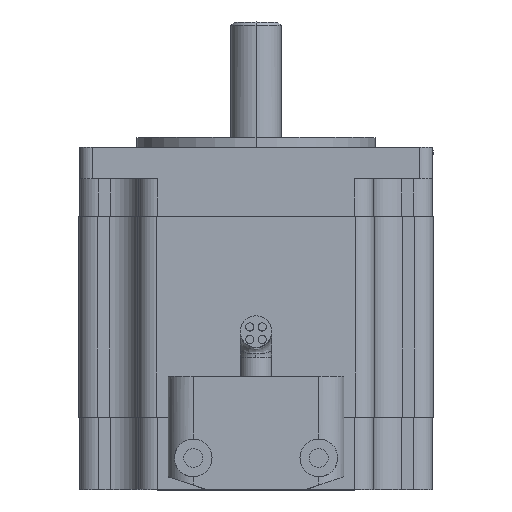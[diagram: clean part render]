
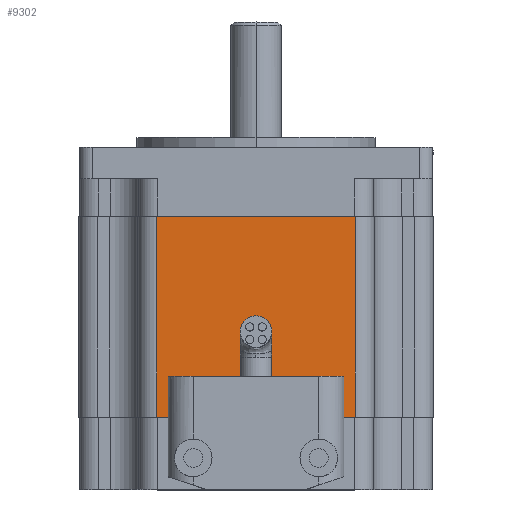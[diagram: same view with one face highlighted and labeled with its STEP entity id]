
A CAD part, top view. The second image highlights one B-rep face of the part: STEP entity #9302.
In plain terms, the highlighted planar face has unit normal (0, 0, 1).
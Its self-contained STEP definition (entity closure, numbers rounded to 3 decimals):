
#427 = VECTOR ( 'NONE', #3002, 1000. ) ;
#661 = DIRECTION ( 'NONE',  ( 0., 1., 0. ) ) ;
#755 = LINE ( 'NONE', #8702, #1334 ) ;
#1028 = CARTESIAN_POINT ( 'NONE',  ( 15.8, 0., 28.2 ) ) ;
#1334 = VECTOR ( 'NONE', #661, 1000. ) ;
#1548 = ORIENTED_EDGE ( 'NONE', *, *, #6497, .F. ) ;
#1723 = FACE_OUTER_BOUND ( 'NONE', #9437, .T. ) ;
#1958 = CARTESIAN_POINT ( 'NONE',  ( -15.8, 32., 28.2 ) ) ;
#2070 = CARTESIAN_POINT ( 'NONE',  ( 18.8, 32., 28.2 ) ) ;
#2292 = DIRECTION ( 'NONE',  ( 0., -1., 0. ) ) ;
#2393 = DIRECTION ( 'NONE',  ( 0., 0., -1. ) ) ;
#2637 = VERTEX_POINT ( 'NONE', #3510 ) ;
#3002 = DIRECTION ( 'NONE',  ( 1., 0., 0. ) ) ;
#3374 = ORIENTED_EDGE ( 'NONE', *, *, #6563, .T. ) ;
#3510 = CARTESIAN_POINT ( 'NONE',  ( -15.8, 0., 28.2 ) ) ;
#3534 = DIRECTION ( 'NONE',  ( 1., 0., 0. ) ) ;
#4121 = ORIENTED_EDGE ( 'NONE', *, *, #6720, .T. ) ;
#4639 = VECTOR ( 'NONE', #2292, 1000. ) ;
#4773 = ORIENTED_EDGE ( 'NONE', *, *, #6025, .T. ) ;
#5450 = LINE ( 'NONE', #2070, #9365 ) ;
#5837 = CARTESIAN_POINT ( 'NONE',  ( 15.8, 32., 28.2 ) ) ;
#6025 = EDGE_CURVE ( 'NONE', #2637, #7833, #6126, .T. ) ;
#6126 = LINE ( 'NONE', #6608, #427 ) ;
#6497 = EDGE_CURVE ( 'NONE', #8563, #8776, #5450, .T. ) ;
#6563 = EDGE_CURVE ( 'NONE', #7833, #8776, #755, .T. ) ;
#6608 = CARTESIAN_POINT ( 'NONE',  ( 18.8, 0., 28.2 ) ) ;
#6720 = EDGE_CURVE ( 'NONE', #8563, #2637, #9128, .T. ) ;
#6754 = PLANE ( 'NONE',  #9364 ) ;
#7508 = DIRECTION ( 'NONE',  ( -1., 0., 0. ) ) ;
#7833 = VERTEX_POINT ( 'NONE', #1028 ) ;
#8563 = VERTEX_POINT ( 'NONE', #1958 ) ;
#8702 = CARTESIAN_POINT ( 'NONE',  ( 15.8, 32., 28.2 ) ) ;
#8776 = VERTEX_POINT ( 'NONE', #5837 ) ;
#8856 = CARTESIAN_POINT ( 'NONE',  ( -15.8, 32., 28.2 ) ) ;
#8920 = CARTESIAN_POINT ( 'NONE',  ( 18.8, 32., 28.2 ) ) ;
#9128 = LINE ( 'NONE', #8856, #4639 ) ;
#9302 = ADVANCED_FACE ( 'NONE', ( #1723 ), #6754, .F. ) ;
#9364 = AXIS2_PLACEMENT_3D ( 'NONE', #8920, #2393, #7508 ) ;
#9365 = VECTOR ( 'NONE', #3534, 1000. ) ;
#9437 = EDGE_LOOP ( 'NONE', ( #4773, #3374, #1548, #4121 ) ) ;
